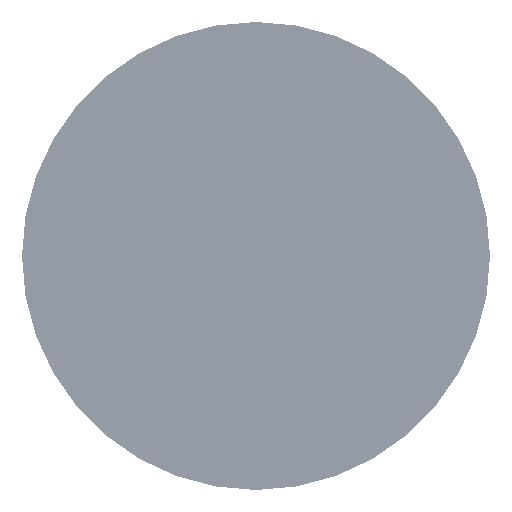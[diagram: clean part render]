
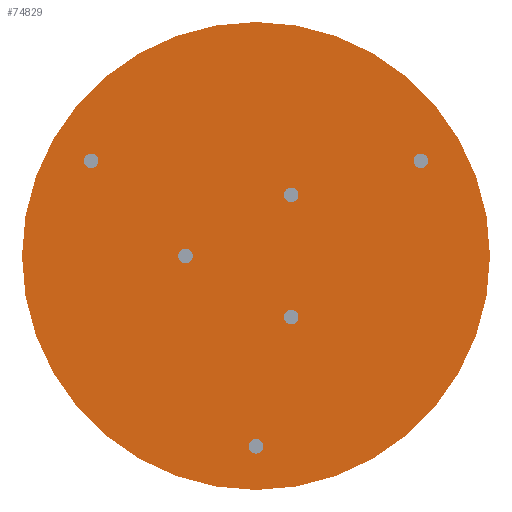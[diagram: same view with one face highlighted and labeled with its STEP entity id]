
A CAD part, front view. The second image highlights one B-rep face of the part: STEP entity #74829.
In plain terms, the highlighted planar face has unit normal (0, -1, 0).
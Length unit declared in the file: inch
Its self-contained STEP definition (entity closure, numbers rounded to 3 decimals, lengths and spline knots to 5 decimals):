
#4125 = CARTESIAN_POINT ( 'NONE',  ( 0.24606, 0., -0.42619 ) ) ;
#5604 = DIRECTION ( 'NONE',  ( 0., 1., 0. ) ) ;
#7478 = EDGE_LOOP ( 'NONE', ( #48717 ) ) ;
#8772 = FACE_BOUND ( 'NONE', #7478, .T. ) ;
#9830 = DIRECTION ( 'NONE',  ( 0., 0., -1. ) ) ;
#13253 = VERTEX_POINT ( 'NONE', #93748 ) ;
#13284 = DIRECTION ( 'NONE',  ( 0., 0., -1. ) ) ;
#14208 = ORIENTED_EDGE ( 'NONE', *, *, #14366, .T. ) ;
#14366 = EDGE_CURVE ( 'NONE', #19160, #19160, #21782, .T. ) ;
#15289 = DIRECTION ( 'NONE',  ( 0., 1., 0. ) ) ;
#15818 = FACE_BOUND ( 'NONE', #57693, .T. ) ;
#17910 = EDGE_CURVE ( 'NONE', #13253, #13253, #56155, .T. ) ;
#18210 = DIRECTION ( 'NONE',  ( 0., 1., 0. ) ) ;
#18302 = DIRECTION ( 'NONE',  ( 0., 1., 0. ) ) ;
#19060 = VERTEX_POINT ( 'NONE', #80055 ) ;
#19160 = VERTEX_POINT ( 'NONE', #56603 ) ;
#19450 = CARTESIAN_POINT ( 'NONE',  ( 0.24606, 0., 0.42619 ) ) ;
#21782 = CIRCLE ( 'NONE', #46855, 0.05079 ) ;
#24093 = DIRECTION ( 'NONE',  ( 0., 0., 1. ) ) ;
#24405 = FACE_BOUND ( 'NONE', #110117, .T. ) ;
#26144 = AXIS2_PLACEMENT_3D ( 'NONE', #41586, #5604, #115062 ) ;
#28279 = EDGE_CURVE ( 'NONE', #67629, #67629, #48145, .T. ) ;
#30274 = AXIS2_PLACEMENT_3D ( 'NONE', #4125, #59612, #13284 ) ;
#30975 = CARTESIAN_POINT ( 'NONE',  ( -1.15072, 0., 0.61358 ) ) ;
#31098 = CIRCLE ( 'NONE', #30274, 0.05079 ) ;
#37132 = AXIS2_PLACEMENT_3D ( 'NONE', #91443, #18302, #53909 ) ;
#37748 = CARTESIAN_POINT ( 'NONE',  ( -1.15072, 0., 0.66437 ) ) ;
#41586 = CARTESIAN_POINT ( 'NONE',  ( 1.15072, 0., 0.66437 ) ) ;
#46855 = AXIS2_PLACEMENT_3D ( 'NONE', #64952, #18210, #9830 ) ;
#47208 = ORIENTED_EDGE ( 'NONE', *, *, #98596, .T. ) ;
#47559 = ORIENTED_EDGE ( 'NONE', *, *, #28279, .T. ) ;
#48145 = CIRCLE ( 'NONE', #26144, 0.05079 ) ;
#48717 = ORIENTED_EDGE ( 'NONE', *, *, #100372, .T. ) ;
#49817 = ORIENTED_EDGE ( 'NONE', *, *, #83204, .T. ) ;
#50784 = AXIS2_PLACEMENT_3D ( 'NONE', #107183, #15289, #24093 ) ;
#52709 = DIRECTION ( 'NONE',  ( 0., 1., 0. ) ) ;
#53104 = CARTESIAN_POINT ( 'NONE',  ( 0., 0., 0. ) ) ;
#53909 = DIRECTION ( 'NONE',  ( 0., 0., -1. ) ) ;
#55328 = DIRECTION ( 'NONE',  ( 0., 1., 0. ) ) ;
#55455 = DIRECTION ( 'NONE',  ( 0., 0., -1. ) ) ;
#56155 = CIRCLE ( 'NONE', #78435, 1.63386 ) ;
#56603 = CARTESIAN_POINT ( 'NONE',  ( -0.49213, 0., -0.05079 ) ) ;
#57693 = EDGE_LOOP ( 'NONE', ( #47559 ) ) ;
#58706 = FACE_OUTER_BOUND ( 'NONE', #66313, .T. ) ;
#59612 = DIRECTION ( 'NONE',  ( 0., 1., 0. ) ) ;
#61561 = FACE_BOUND ( 'NONE', #73921, .T. ) ;
#61846 = DIRECTION ( 'NONE',  ( 0., 0., -1. ) ) ;
#63418 = AXIS2_PLACEMENT_3D ( 'NONE', #37748, #55328, #110819 ) ;
#64952 = CARTESIAN_POINT ( 'NONE',  ( -0.49213, 0., 0. ) ) ;
#66313 = EDGE_LOOP ( 'NONE', ( #68908 ) ) ;
#67629 = VERTEX_POINT ( 'NONE', #74588 ) ;
#68908 = ORIENTED_EDGE ( 'NONE', *, *, #17910, .F. ) ;
#69115 = VERTEX_POINT ( 'NONE', #69673 ) ;
#69673 = CARTESIAN_POINT ( 'NONE',  ( 0.24606, 0., -0.47698 ) ) ;
#73818 = DIRECTION ( 'NONE',  ( 0., 1., 0. ) ) ;
#73921 = EDGE_LOOP ( 'NONE', ( #104340 ) ) ;
#74588 = CARTESIAN_POINT ( 'NONE',  ( 1.15072, 0., 0.61358 ) ) ;
#74829 = ADVANCED_FACE ( 'N', ( #24405, #61561, #15818, #8772, #78753, #115909, #58706 ), #112857, .F. ) ;
#77708 = VERTEX_POINT ( 'NONE', #30975 ) ;
#78435 = AXIS2_PLACEMENT_3D ( 'NONE', #53104, #52709, #61846 ) ;
#78753 = FACE_BOUND ( 'NONE', #116139, .T. ) ;
#80055 = CARTESIAN_POINT ( 'NONE',  ( 0.24606, 0., 0.37541 ) ) ;
#82028 = VERTEX_POINT ( 'NONE', #98416 ) ;
#82982 = EDGE_LOOP ( 'NONE', ( #14208 ) ) ;
#83204 = EDGE_CURVE ( 'NONE', #77708, #77708, #87563, .T. ) ;
#87563 = CIRCLE ( 'NONE', #63418, 0.05079 ) ;
#91443 = CARTESIAN_POINT ( 'NONE',  ( 0., 0., -1.32874 ) ) ;
#91450 = CIRCLE ( 'NONE', #37132, 0.05079 ) ;
#93748 = CARTESIAN_POINT ( 'NONE',  ( 0., 0., -1.63386 ) ) ;
#98416 = CARTESIAN_POINT ( 'NONE',  ( 0., 0., -1.37953 ) ) ;
#98596 = EDGE_CURVE ( 'NONE', #82028, #82028, #91450, .T. ) ;
#100372 = EDGE_CURVE ( 'NONE', #69115, #69115, #31098, .T. ) ;
#102313 = CIRCLE ( 'NONE', #109194, 0.05079 ) ;
#104029 = EDGE_CURVE ( 'NONE', #19060, #19060, #102313, .T. ) ;
#104340 = ORIENTED_EDGE ( 'NONE', *, *, #104029, .T. ) ;
#107183 = CARTESIAN_POINT ( 'NONE',  ( 0., 0., 0. ) ) ;
#109194 = AXIS2_PLACEMENT_3D ( 'NONE', #19450, #73818, #55455 ) ;
#110117 = EDGE_LOOP ( 'NONE', ( #49817 ) ) ;
#110819 = DIRECTION ( 'NONE',  ( 0., 0., -1. ) ) ;
#112857 = PLANE ( 'NONE',  #50784 ) ;
#115062 = DIRECTION ( 'NONE',  ( 0., 0., -1. ) ) ;
#115909 = FACE_BOUND ( 'NONE', #82982, .T. ) ;
#116139 = EDGE_LOOP ( 'NONE', ( #47208 ) ) ;
